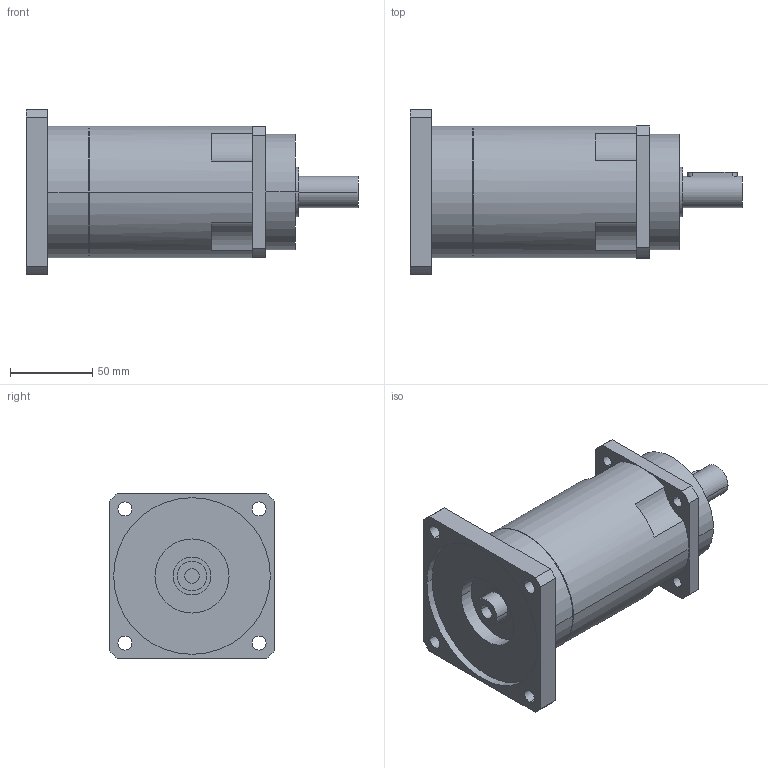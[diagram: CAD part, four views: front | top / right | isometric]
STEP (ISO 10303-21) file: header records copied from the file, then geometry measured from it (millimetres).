
FILE_DESCRIPTION(('CoCreate Modeling STEP Export'),'2;1');
FILE_NAME('GPR100_ig-48-64-80-100-120-144-180-216_19_B5_9_P07.stp','2014-08-26T13:05:08',(''),(''),'CoCreate Modeling STEP processor for AP214 (Solid Model)','CoCreate Modeling 16.00C 25-Feb-2009 (C) Parametric Technology GmbH','');
FILE_SCHEMA(('AUTOMOTIVE_DESIGN { 1 0 10303 214 1 1 1 1 }'));
Length unit declared in the file: millimetre
Products named in the file (2): GPR100_ig-48-64-80-100-120-144-180-216_19_B5_9_P07
Assembly tree (1 placements, depth 2):
  GPR100_ig-48-64-80-100-120-144-180-216_19_B5_9_P07
    GPR100_ig-48-64-80-100-120-144-180-216_19_B5_9_P07
Bounding box: 201.4 x 100 x 100 mm (x, y, z)
Volume: 828951.5 mm3; surface area: 74205.5 mm2
Topology: 1 solids, 1 shells, 89 faces, 247 edges, 169 vertices
Faces by surface type: cylinder 52, plane 31, cone 6
Entity records: 2612 total; most frequent: ORIENTED_EDGE 490, CARTESIAN_POINT 474, DIRECTION 386, EDGE_CURVE 245, VERTEX_POINT 169, AXIS2_PLACEMENT_3D 145, EDGE_LOOP 116, VECTOR 96
